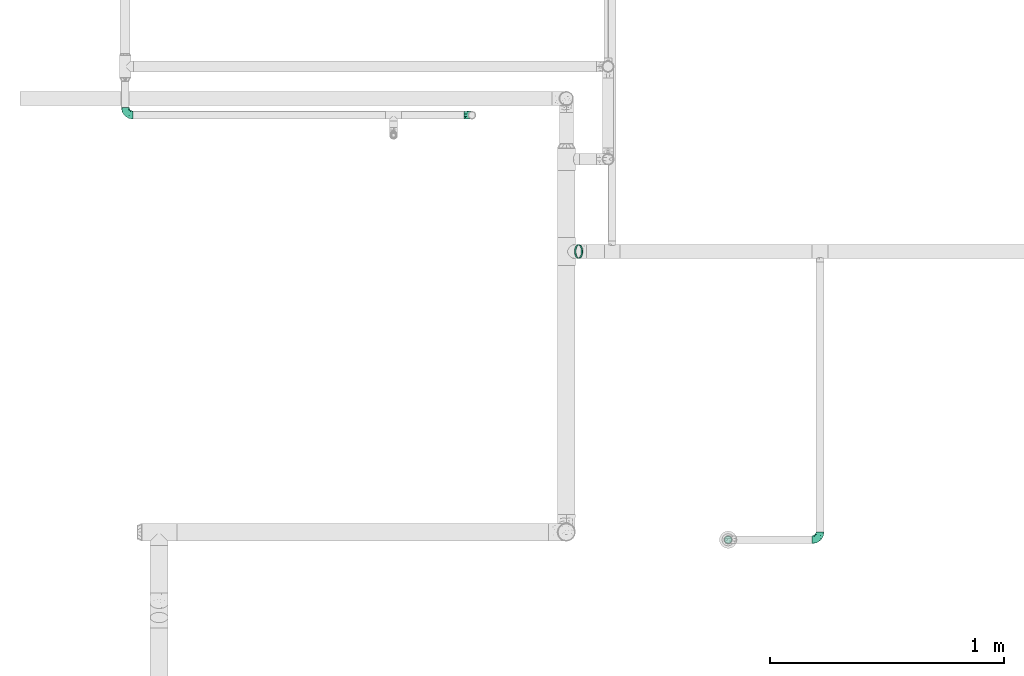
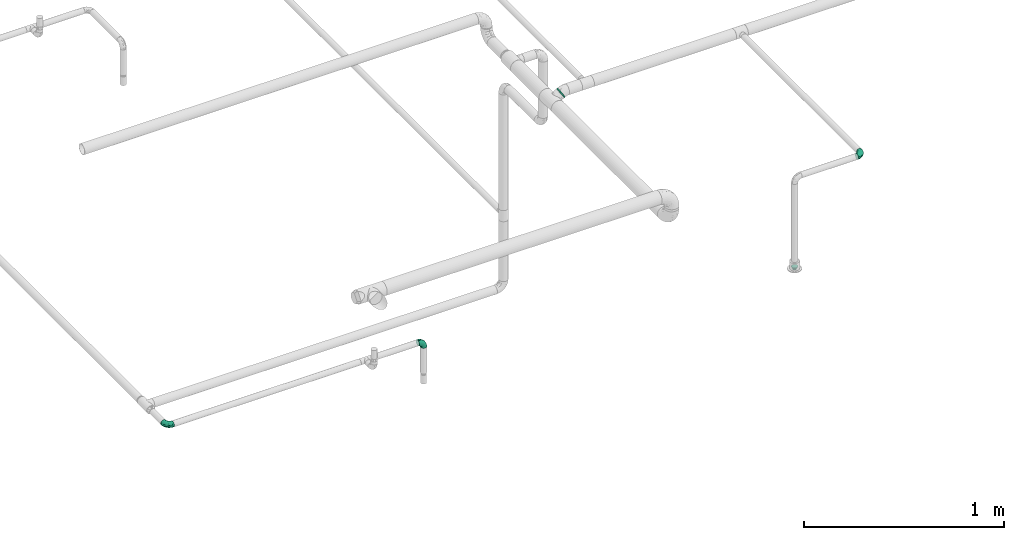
# One storey, part 60 of 95: 4 flow fittings, 1 flow segment.
"""IFC2X3 building model written with IfcOpenShell, lengths in millimetres."""

from ifc_helpers import new_model, entity, si_unit, converted_unit, derived_unit, direction, frame, origin_with_axes, origin_2d_with_axis, place, context, subcontext, project, spatial, hollow_circle, extrude, open_shell, surface_model, source, transform, mapped, type_object, element, save


model = new_model("IFC2X3")

# Units and contexts
model_context = context("Model", 3, precision=0.01, world=frame((0.0, 4.29681676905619e-09, 0.0)), true_north=direction((4.01073788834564e-13, 1.0)))
plan_context = context("Plan", 3, precision=0.01, world=frame((0.0, 4.29681676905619e-09, 0.0)), true_north=direction((4.01073788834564e-13, 1.0)))
body_context = subcontext(model_context, "Body", "Model", "MODEL_VIEW")
ifc_project = project(units=[converted_unit("PLANEANGLEUNIT", "DEGREE", entity("IfcPositiveLengthMeasure", 0.0174532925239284), si_unit("PLANEANGLEUNIT", "RADIAN"), dimensions=[0, 0, 0, 0, 0, 0, 0]), si_unit("AREAUNIT", "SQUARE_METRE"), si_unit("LENGTHUNIT", "METRE", prefix="MILLI"), si_unit("MASSUNIT", "GRAM", prefix="KILO"), si_unit("POWERUNIT", "WATT"), si_unit("PRESSUREUNIT", "PASCAL"), si_unit("FORCEUNIT", "NEWTON", prefix="KILO"), si_unit("ELECTRICVOLTAGEUNIT", "VOLT"), si_unit("ELECTRICCURRENTUNIT", "AMPERE"), si_unit("THERMODYNAMICTEMPERATUREUNIT", "DEGREE_CELSIUS"), si_unit("TIMEUNIT", "SECOND"), si_unit("VOLUMEUNIT", "CUBIC_METRE"), derived_unit("LINEARVELOCITYUNIT", [(si_unit("LENGTHUNIT", "METRE"), 1), (si_unit("TIMEUNIT", "SECOND"), -1)]), derived_unit("VOLUMETRICFLOWRATEUNIT", [(si_unit("VOLUMEUNIT", "CUBIC_METRE"), 1), (si_unit("TIMEUNIT", "SECOND"), -1)]), derived_unit("THERMALTRANSMITTANCEUNIT", [(si_unit("POWERUNIT", "WATT"), 1), (si_unit("THERMODYNAMICTEMPERATUREUNIT", "KELVIN"), -1), (si_unit("AREAUNIT", "SQUARE_METRE"), -1)]), derived_unit("SOUNDPRESSUREUNIT", [(si_unit("PRESSUREUNIT", "PASCAL"), 1)])], contexts=[model_context, plan_context])

# Site, building, storey
site_placement = place(None, frame((0.0, -4.29681676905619e-09, 0.0), z_axis=(0.0, 0.0, 1.0), x_axis=(1.0, 0.0, 0.0)))
site = spatial("IfcSite", under=ifc_project, at=site_placement, CompositionType="ELEMENT")
building_placement = place(site_placement, frame((0.0, 4.29681676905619e-09, 0.0), z_axis=(0.0, 0.0, 1.0), x_axis=(1.0, 0.0, 0.0)))
building = spatial("IfcBuilding", under=site, at=building_placement, Name="mc-building", CompositionType="ELEMENT")
storey_placement = place(building_placement, frame((0.0, 0.0, 210900.0), z_axis=(0.0, 0.0, 1.0), x_axis=(1.0, 0.0, 0.0)))
storey = spatial("IfcBuildingStorey", under=building, at=storey_placement, Name="Nivå F", CompositionType="ELEMENT", Elevation=210900.0)

# Flow fittings
pipe_fitting_type_1 = type_object("IfcPipeFittingType", Name="magi_pipe_fe_reducer_centric_short_NOR", PredefinedType="TRANSITION")
shared_shape_1 = source(origin_with_axes(), body_context, "Body", "SurfaceModel", [
    surface_model("IfcShellBasedSurfaceModel", [(14.4, 5.35, -9.26647), (14.4, 0.0, -10.7), (14.4, 2.76936, -10.33541), (14.4, 10.33541, -2.76936), (14.4, 7.56604, -7.56604), (14.4, -10.33541, -2.76936), (14.4, 9.26647, -5.35), (14.4, 0.0, 10.7), (14.4, -5.35, -9.26647), (14.4, -2.76936, -10.33541), (14.4, -7.56604, -7.56604), (14.4, -9.26647, -5.35), (14.4, 10.7, 0.0), (14.4, 10.33541, 2.76936), (14.4, 9.26647, 5.35), (14.4, 7.56604, 7.56604), (14.4, 2.76936, 10.33541), (14.4, 5.35, 9.26647), (14.4, -10.33541, 2.76936), (14.4, -7.56604, 7.56604), (14.4, -9.26647, 5.35), (14.4, -10.7, 0.0), (14.4, -2.76936, 10.33541), (14.4, -5.35, 9.26647), (12.4, 2.76936, 10.33541), (12.4, -10.33541, -2.76936), (12.4, 0.0, 10.7), (12.4, 5.35, 9.26647), (12.4, 7.56604, 7.56604), (12.4, 9.26647, 5.35), (12.4, 10.33541, 2.76936), (12.4, -10.33541, 2.76936), (12.4, -2.76936, 10.33541), (12.4, -7.56604, 7.56604), (12.4, -5.35, 9.26647), (12.4, -9.26647, 5.35), (12.4, -10.7, 0.0), (12.4, 10.33541, -2.76936), (12.4, 5.35, -9.26647), (12.4, 9.26647, -5.35), (12.4, 7.56604, -7.56604), (12.4, 2.76936, -10.33541), (12.4, -9.26647, -5.35), (12.4, -5.35, -9.26647), (12.4, -7.56604, -7.56604), (12.4, 0.0, -10.7), (12.4, -2.76936, -10.33541), (12.4, 10.7, 0.0), (-2.0, 11.9501, 11.9501), (-2.0, 0.0, 16.9), (-2.0, 4.37404, 16.32415), (-2.0, 8.45, 14.63583), (-2.0, 14.63583, 8.45), (-2.0, 16.32415, 4.37404), (-2.0, -16.32415, 4.37404), (-2.0, -8.45, 14.63583), (-2.0, -14.63583, 8.45), (-2.0, -11.9501, 11.9501), (-2.0, -4.37404, 16.32415), (-2.0, -16.32415, -4.37404), (-2.0, -16.9, 0.0), (-2.0, -8.45, -14.63583), (-2.0, 16.32415, -4.37404), (-2.0, 11.9501, -11.9501), (-2.0, 14.63583, -8.45), (-2.0, 8.45, -14.63583), (-2.0, 4.37404, -16.32415), (-2.0, 0.0, -16.9), (-2.0, -11.9501, -11.9501), (-2.0, -14.63583, -8.45), (-2.0, -4.37404, -16.32415), (-2.0, 16.9, 0.0), (0.0, 4.37404, -16.32415), (0.0, 8.45, -14.63583), (0.0, 11.9501, -11.9501), (0.0, 0.0, -16.9), (0.0, 16.32415, -4.37404), (0.0, 16.32415, 4.37404), (0.0, 14.63583, -8.45), (0.0, -8.45, -14.63583), (0.0, -4.37404, -16.32415), (0.0, -11.9501, -11.9501), (0.0, -16.32415, -4.37404), (0.0, -14.63583, -8.45), (0.0, -16.32415, 4.37404), (0.0, 16.9, 0.0), (0.0, 14.63583, 8.45), (0.0, 11.9501, 11.9501), (0.0, 4.37404, 16.32415), (0.0, 8.45, 14.63583), (0.0, 0.0, 16.9), (0.0, -14.63583, 8.45), (0.0, -16.9, 0.0), (0.0, -8.45, 14.63583), (0.0, -11.9501, 11.9501), (0.0, -4.37404, 16.32415), (12.4, 9.3625, -2.31662), (0.0, 14.42505, -5.97505), (0.0, 15.66253, -2.98753), (12.4, -6.6875, -6.94985), (0.0, -13.18758, -8.96258), (0.0, 2.98753, -15.66253), (12.4, 0.0, -9.26647), (12.4, 6.6875, -6.94985), (0.0, 8.96258, -13.18758), (12.4, -9.3625, -2.31662), (0.0, -15.66253, -2.98753), (0.0, -14.42505, -5.97505), (0.0, 5.97505, -14.42505), (0.0, -2.98753, -15.66253), (0.0, -8.96258, -13.18758), (0.0, 13.18758, -8.96258), (12.4, 8.025, -4.63324), (12.4, -2.675, -9.26647), (12.4, 2.675, -9.26647), (0.0, -5.97505, -14.42505), (12.4, -8.025, -4.63324), (12.4, -9.3625, 2.31662), (0.0, -14.42505, 5.97505), (0.0, -15.66253, 2.98753), (12.4, 6.6875, 6.94985), (0.0, 13.18758, 8.96258), (0.0, -2.98753, 15.66253), (12.4, 0.0, 9.26647), (12.4, -6.6875, 6.94985), (0.0, -8.96258, 13.18758), (12.4, 9.3625, 2.31662), (0.0, 15.66253, 2.98753), (0.0, 14.42505, 5.97505), (0.0, -5.97505, 14.42505), (0.0, 2.98753, 15.66253), (0.0, 8.96258, 13.18758), (0.0, -13.18758, 8.96258), (12.4, -8.025, 4.63324), (12.4, 2.675, 9.26647), (12.4, -2.675, 9.26647), (0.0, 5.97505, 14.42505), (12.4, 8.025, 4.63324)], [open_shell([[[0, 1, 2]], [[3, 0, 4]], [[5, 0, 3]], [[3, 4, 6]], [[7, 5, 3]], [[1, 8, 9]], [[1, 0, 8]], [[10, 5, 11]], [[5, 10, 8]], [[0, 5, 8]], [[3, 12, 13]], [[13, 14, 15]], [[13, 15, 16]], [[7, 3, 16]], [[16, 15, 17]], [[7, 18, 5]], [[18, 19, 20]], [[21, 5, 18]], [[19, 22, 23]], [[22, 19, 18]], [[7, 22, 18]], [[13, 16, 3]], [[24, 25, 26]], [[27, 25, 24]], [[28, 29, 30]], [[28, 25, 27]], [[31, 26, 25]], [[32, 33, 34]], [[33, 32, 31]], [[33, 31, 35]], [[32, 26, 31]], [[31, 25, 36]], [[30, 37, 28]], [[25, 28, 37]], [[38, 37, 39]], [[37, 38, 25]], [[38, 39, 40]], [[41, 25, 38]], [[42, 43, 44]], [[43, 42, 25]], [[43, 45, 46]], [[43, 25, 41]], [[41, 45, 43]], [[37, 30, 47]], [[25, 5, 36]], [[42, 11, 25]], [[8, 44, 43]], [[42, 44, 10]], [[9, 43, 46]], [[25, 11, 5]], [[5, 21, 36]], [[9, 8, 43]], [[10, 44, 8]], [[10, 11, 42]], [[1, 9, 46]], [[46, 45, 1]], [[41, 2, 45]], [[38, 0, 41]], [[6, 40, 39]], [[38, 40, 4]], [[3, 39, 37]], [[38, 4, 0]], [[0, 2, 41]], [[12, 3, 37]], [[6, 39, 3]], [[6, 4, 40]], [[47, 12, 37]], [[45, 2, 1]], [[30, 13, 47]], [[29, 14, 30]], [[17, 28, 27]], [[29, 28, 15]], [[16, 27, 24]], [[30, 14, 13]], [[13, 12, 47]], [[16, 17, 27]], [[15, 28, 17]], [[15, 14, 29]], [[7, 16, 24]], [[24, 26, 7]], [[32, 22, 26]], [[34, 23, 32]], [[20, 33, 35]], [[34, 33, 19]], [[18, 35, 31]], [[34, 19, 23]], [[23, 22, 32]], [[21, 18, 31]], [[20, 35, 18]], [[20, 19, 33]], [[36, 21, 31]], [[26, 22, 7]], [[48, 49, 50]], [[48, 50, 51]], [[48, 52, 53]], [[48, 53, 49]], [[49, 53, 54]], [[55, 56, 57]], [[55, 58, 49]], [[56, 55, 49]], [[49, 54, 56]], [[54, 59, 60]], [[54, 53, 61]], [[53, 62, 63]], [[63, 62, 64]], [[63, 65, 66]], [[61, 53, 63]], [[67, 63, 66]], [[59, 68, 69]], [[68, 59, 61]], [[61, 67, 70]], [[59, 54, 61]], [[63, 67, 61]], [[53, 71, 62]], [[72, 73, 74]], [[75, 72, 74]], [[74, 76, 77]], [[76, 74, 78]], [[74, 77, 79]], [[75, 79, 80]], [[75, 74, 79]], [[81, 82, 83]], [[82, 81, 79]], [[79, 84, 82]], [[77, 76, 85]], [[77, 86, 87]], [[77, 87, 88]], [[88, 84, 79]], [[88, 87, 89]], [[84, 88, 90]], [[90, 91, 84]], [[92, 82, 84]], [[91, 93, 94]], [[91, 90, 93]], [[93, 90, 95]], [[79, 77, 88]], [[59, 82, 60]], [[69, 83, 59]], [[79, 68, 61]], [[69, 68, 81]], [[80, 61, 70]], [[59, 83, 82]], [[82, 92, 60]], [[80, 79, 61]], [[81, 68, 79]], [[81, 83, 69]], [[75, 80, 70]], [[70, 67, 75]], [[66, 72, 67]], [[65, 73, 66]], [[78, 63, 64]], [[65, 63, 74]], [[76, 64, 62]], [[65, 74, 73]], [[73, 72, 66]], [[85, 76, 62]], [[78, 64, 76]], [[78, 74, 63]], [[71, 85, 62]], [[67, 72, 75]], [[53, 77, 71]], [[52, 86, 53]], [[89, 48, 51]], [[52, 48, 87]], [[88, 51, 50]], [[53, 86, 77]], [[77, 85, 71]], [[88, 89, 51]], [[87, 48, 89]], [[87, 86, 52]], [[90, 88, 50]], [[50, 49, 90]], [[58, 95, 49]], [[55, 93, 58]], [[91, 57, 56]], [[55, 57, 94]], [[84, 56, 54]], [[55, 94, 93]], [[93, 95, 58]], [[92, 84, 54]], [[91, 56, 84]], [[91, 94, 57]], [[60, 92, 54]], [[49, 95, 90]], [[27, 34, 47]], [[47, 34, 43]], [[43, 38, 47]], [[43, 34, 36]], [[90, 87, 94]], [[92, 94, 87]], [[87, 74, 92]], [[75, 92, 74]], [[81, 92, 75]], [[74, 87, 85]], [[96, 97, 98]], [[81, 99, 100]], [[101, 102, 75]], [[98, 85, 47]], [[74, 103, 104]], [[104, 103, 38]], [[105, 106, 107]], [[38, 108, 104]], [[102, 109, 75]], [[110, 99, 81]], [[47, 96, 98]], [[103, 111, 112]], [[109, 102, 113]], [[36, 92, 106]], [[102, 101, 114]], [[110, 115, 43]], [[96, 112, 97]], [[107, 116, 105]], [[36, 106, 105]], [[113, 115, 109]], [[43, 115, 113]], [[116, 107, 100]], [[108, 38, 114]], [[111, 103, 74]], [[111, 97, 112]], [[99, 110, 43]], [[116, 100, 99]], [[101, 108, 114]], [[117, 118, 119]], [[87, 120, 121]], [[122, 123, 90]], [[119, 92, 36]], [[94, 124, 125]], [[125, 124, 34]], [[126, 127, 128]], [[34, 129, 125]], [[123, 130, 90]], [[131, 120, 87]], [[36, 117, 119]], [[124, 132, 133]], [[130, 123, 134]], [[47, 85, 127]], [[123, 122, 135]], [[131, 136, 27]], [[117, 133, 118]], [[128, 137, 126]], [[47, 127, 126]], [[134, 136, 130]], [[27, 136, 134]], [[137, 128, 121]], [[129, 34, 135]], [[132, 124, 94]], [[132, 118, 133]], [[120, 131, 27]], [[137, 121, 120]], [[122, 129, 135]]])]),
])
flow_fitting_placement = place(storey_placement, frame((523293.60843, 449607.85, 3769.25200000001), z_axis=(-0.000893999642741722, -0.99999960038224, 0.0), x_axis=(0.0, 0.0, -1.0)))
element("IfcFlowFitting", 1, at=flow_fitting_placement, inside=storey, type_object=pipe_fitting_type_1, Name="magi_pipe_fe_reducer_centric_short_NOR", context=body_context, shape_type="MappedRepresentation", body=[
    mapped(shared_shape_1, transform((0.0, 0.0, 0.0), scale=1.0)),
])
pipe_fitting_type_2 = type_object("IfcPipeFittingType", Name="magi_pipe_fe_elbow_short_001", PredefinedType="BEND")
shared_shape_2 = source(origin_with_axes(), body_context, "Body", "SurfaceModel", [
    surface_model("IfcShellBasedSurfaceModel", [(-33.8, 8.45, -14.63583), (-33.8, 4.37404, -16.32415), (-33.8, 11.9501, -11.9501), (-33.8, -11.9501, -11.9501), (-33.8, -14.63583, -8.45), (-33.8, -8.45, -14.63583), (-33.8, 0.0, -16.9), (-33.8, -4.37404, -16.32415), (-33.8, -4.37404, 16.32415), (-33.8, 0.0, 16.9), (-33.8, -8.45, 14.63583), (-33.8, 16.32415, -4.37404), (-33.8, 14.63583, -8.45), (-33.8, -16.32415, -4.37404), (-33.8, -16.9, 0.0), (-33.8, -16.32415, 4.37404), (-33.8, 11.9501, 11.9501), (-33.8, 14.63583, 8.45), (-33.8, 16.32415, 4.37404), (-33.8, 4.37404, 16.32415), (-33.8, 8.45, 14.63583), (-33.8, -14.63583, 8.45), (-33.8, -11.9501, 11.9501), (-33.8, 16.9, 0.0), (-11.9501, 33.8, -11.9501), (0.0, 33.8, -16.9), (-4.37404, 33.8, -16.32415), (-8.45, 33.8, -14.63583), (-14.63583, 33.8, -8.45), (-16.32415, 33.8, -4.37404), (14.63583, 33.8, -8.45), (8.45, 33.8, 14.63583), (16.32415, 33.8, -4.37404), (8.45, 33.8, -14.63583), (11.9501, 33.8, -11.9501), (4.37404, 33.8, -16.32415), (16.32415, 33.8, 4.37404), (16.9, 33.8, 0.0), (-11.9501, 33.8, 11.9501), (-16.32415, 33.8, 4.37404), (-14.63583, 33.8, 8.45), (-8.45, 33.8, 14.63583), (-4.37404, 33.8, 16.32415), (11.9501, 33.8, 11.9501), (14.63583, 33.8, 8.45), (0.0, 33.8, 16.9), (4.37404, 33.8, 16.32415), (-16.9, 33.8, 0.0), (-24.79389, -13.12945, 9.48721), (-22.19287, -9.75018, 12.59315), (-24.09897, -14.97035, 0.0), (-14.93934, -10.76256, 8.5297), (-22.46095, -14.75051, 5.27077), (14.75051, 22.46094, 5.27077), (11.9251, 13.23888, 4.33236), (13.04069, 14.39795, 0.0), (7.71387, 13.68847, 11.55891), (9.75018, 22.19287, 12.59315), (4.10169, 13.0571, 14.04018), (-24.84007, -6.39063, 15.2048), (-25.81779, -2.23879, 16.61097), (-23.66549, 2.59054, 16.87119), (-26.50418, 14.06512, 11.08152), (-24.21253, 17.66365, 7.72657), (-29.58514, 15.86957, 7.00283), (-6.17382, -7.5455, 0.0), (-13.23888, -11.9251, 4.33236), (-14.39795, -13.04069, 0.0), (-17.81434, 18.87373, 11.97104), (-6.30846, 29.15138, 15.82987), (-2.31622, 25.28002, 16.85849), (-29.23923, 10.23435, 13.77053), (-1.45439, -2.85688, 7.61475), (-0.28326, 0.34872, 10.09509), (-5.74484, -4.04709, 10.4122), (-4.41137, 11.31918, 16.59407), (-8.39727, 3.10034, 15.7812), (-1.72649, 9.1306, 15.53089), (-17.39909, 24.75344, 7.64977), (-26.19233, 20.0512, 0.0), (-28.14518, 17.29657, 4.25857), (-26.05147, 6.6281, 15.96447), (-5.87354, 16.61944, 16.86968), (-12.51807, 12.51807, 16.48937), (-10.06312, 7.38516, 16.81295), (-3.01882, 3.01882, 13.81718), (-13.0571, -4.10169, 14.04018), (-16.82553, -0.15166, 16.38038), (10.76256, 14.93934, 8.5297), (13.12945, 24.79389, 9.48721), (6.39063, 24.84007, 15.2048), (2.23879, 25.81779, 16.61097), (-13.68847, -7.71387, 11.55891), (14.97035, 24.09897, 0.0), (-7.30894, 22.89991, 16.09489), (-10.67958, 26.17414, 14.008), (-12.78295, 18.26924, 15.06066), (-13.88562, 22.45231, 12.93244), (-18.04944, 15.16501, 14.04434), (-23.11658, 20.08178, 4.02986), (-21.84989, 21.84989, 0.0), (-18.55817, 25.48277, 3.93065), (-13.95142, 26.94732, 11.03289), (-18.57098, 7.23906, 16.59756), (-16.58335, 4.14122, 16.89279), (-17.96666, 11.46709, 15.63151), (-9.84453, 17.54304, 16.18938), (0.15166, 16.82553, 16.38038), (-23.27207, 11.47201, 14.23154), (3.84842, 5.86994, 10.70473), (-8.0212, -7.54413, 7.93275), (1.00345, -2.19508, 4.57414), (5.13203, 3.01004, 5.90201), (5.24161, 1.7543, 2.53265), (8.70457, 7.04947, 3.99182), (-20.0512, 26.19233, 0.0), (8.4852, 8.76699, 7.09296), (-4.55488, -6.72064, 4.90681), (2.05031, -2.05031, 0.0), (7.5455, 6.17382, 0.0), (-26.75399, 2.1369, -16.845), (-14.61995, 24.73803, -11.27736), (-28.45274, -13.45335, -9.81895), (-26.00469, 6.63555, -15.96645), (-23.06726, 20.04573, -4.26202), (-13.80647, -4.26506, -14.17873), (-14.67501, -0.21081, -16.07388), (-6.7902, -0.2828, -13.8478), (-24.53586, 11.08096, -14.13417), (-26.72048, 14.00837, -11.05776), (10.0967, 24.44989, -12.75976), (5.83237, 21.40218, -15.03047), (6.66249, 28.54238, -15.38093), (-20.38182, 15.48705, -12.74596), (12.53268, 21.23441, -9.15363), (12.54494, 15.67504, -5.54878), (9.7522, 12.89279, -8.66343), (-15.65186, 19.64213, -13.01327), (-12.03528, 20.66498, -14.67665), (-15.61907, 15.61906, -14.83879), (-25.56551, -15.26206, 0.0), (-24.65452, -15.12934, -5.50955), (13.45335, 28.45274, -9.81895), (15.12934, 24.65452, -5.50955), (-7.35442, -8.31014, -5.65563), (-15.67504, -12.54494, -5.54878), (-24.44989, -10.0967, -12.75976), (0.16522, 0.41303, -9.71728), (-5.70658, -5.33066, -8.89288), (-5.13869, -2.37198, -11.53565), (-21.23441, -12.53268, -9.15363), (0.71146, 7.93863, -14.09382), (0.21081, 14.67501, -16.07388), (3.49291, 14.42772, -14.76381), (-24.89911, -2.13088, -16.591), (-28.54238, -6.66249, -15.38093), (-18.44386, -7.71663, -13.26957), (2.13088, 24.89911, -16.591), (-28.64342, 17.44413, -2.89318), (1.70017, -1.28722, -5.09504), (-16.57067, 26.81947, -7.36596), (-17.69055, 27.4263, -3.76405), (-12.89279, -9.7522, -8.66343), (-5.96611, 5.96611, -15.95814), (-20.53709, 20.09345, -8.28985), (-2.1369, 26.75399, -16.845), (-6.89872, 24.58781, -16.02578), (-10.60739, 26.53157, -13.98044), (-21.40218, -5.83237, -15.03047), (2.93192, 5.89627, -11.55917), (6.89393, 12.61842, -11.82233), (5.58056, 5.95325, -8.79455), (-3.99512, 18.61798, -16.89635), (8.31014, 7.35442, -5.65563), (-9.1383, 9.86148, -16.89041), (-9.99983, 16.02119, -16.39699), (-16.68576, 9.78031, -16.34199), (-27.01915, 16.61158, -7.12979), (15.26206, 25.56551, 0.0), (-18.61798, 3.99512, -16.89635), (-19.37495, 27.82495, 0.0), (-12.61842, -6.89393, -11.82233), (-18.84705, 19.14018, -10.96545)], [open_shell([[[0, 1, 2]], [[3, 4, 5]], [[6, 7, 5]], [[8, 9, 10]], [[1, 6, 2]], [[11, 12, 2]], [[4, 2, 6]], [[2, 13, 10]], [[5, 4, 6]], [[2, 4, 13]], [[14, 15, 13]], [[11, 2, 16]], [[11, 17, 18]], [[11, 16, 17]], [[19, 20, 16]], [[16, 2, 10]], [[19, 16, 10]], [[21, 22, 15]], [[22, 13, 15]], [[22, 10, 13]], [[10, 9, 19]], [[11, 18, 23]], [[24, 25, 26]], [[24, 26, 27]], [[24, 28, 29]], [[25, 24, 30]], [[31, 32, 24]], [[33, 30, 34]], [[33, 35, 25]], [[25, 30, 33]], [[32, 30, 24]], [[32, 36, 37]], [[38, 24, 29]], [[39, 40, 29]], [[40, 38, 29]], [[38, 41, 42]], [[38, 31, 24]], [[31, 38, 42]], [[36, 43, 44]], [[36, 32, 43]], [[31, 45, 46]], [[32, 31, 43]], [[42, 45, 31]], [[39, 29, 47]], [[22, 48, 49]], [[15, 14, 50]], [[51, 48, 52]], [[53, 54, 55]], [[48, 22, 21]], [[15, 52, 21]], [[56, 57, 58]], [[49, 10, 22]], [[49, 59, 10]], [[9, 60, 61]], [[62, 63, 64]], [[65, 66, 67]], [[57, 43, 31]], [[62, 68, 63]], [[42, 69, 70]], [[20, 71, 16]], [[8, 60, 9]], [[72, 73, 74]], [[75, 76, 77]], [[16, 62, 17]], [[40, 39, 78]], [[79, 23, 80]], [[64, 18, 17]], [[9, 61, 19]], [[19, 81, 20]], [[82, 83, 84]], [[74, 85, 86]], [[59, 86, 87]], [[88, 89, 57]], [[90, 31, 46]], [[44, 53, 36]], [[46, 45, 91]], [[54, 53, 88]], [[44, 89, 53]], [[92, 86, 49]], [[89, 44, 43]], [[10, 59, 8]], [[53, 55, 93]], [[93, 36, 53]], [[66, 52, 67]], [[94, 82, 70]], [[95, 96, 94]], [[97, 98, 96]], [[79, 99, 100]], [[41, 38, 95]], [[101, 100, 99]], [[68, 78, 63]], [[42, 41, 69]], [[23, 18, 80]], [[95, 94, 69]], [[78, 101, 99]], [[38, 102, 95]], [[70, 45, 42]], [[97, 95, 102]], [[15, 50, 52]], [[90, 57, 31]], [[57, 90, 58]], [[81, 19, 61]], [[103, 104, 84]], [[105, 81, 103]], [[38, 40, 102]], [[106, 96, 83]], [[94, 106, 82]], [[91, 70, 107]], [[71, 62, 16]], [[62, 108, 98]], [[86, 59, 49]], [[67, 52, 50]], [[60, 59, 87]], [[92, 49, 51]], [[86, 85, 76]], [[91, 90, 46]], [[37, 36, 93]], [[107, 77, 58]], [[107, 58, 90]], [[58, 85, 109]], [[110, 74, 92]], [[72, 74, 110]], [[66, 51, 52]], [[72, 111, 112]], [[113, 114, 112]], [[56, 88, 57]], [[52, 48, 21]], [[49, 48, 51]], [[57, 89, 43]], [[53, 89, 88]], [[103, 81, 61]], [[71, 81, 108]], [[18, 64, 80]], [[63, 78, 99]], [[47, 115, 101]], [[101, 115, 100]], [[40, 78, 102]], [[68, 102, 78]], [[97, 96, 95]], [[105, 98, 108]], [[103, 84, 83]], [[107, 70, 82]], [[76, 84, 87]], [[82, 84, 75]], [[70, 91, 45]], [[90, 91, 107]], [[59, 60, 8]], [[61, 60, 87]], [[73, 85, 74]], [[109, 112, 116]], [[103, 61, 104]], [[105, 103, 83]], [[96, 105, 83]], [[81, 105, 108]], [[96, 98, 105]], [[62, 98, 68]], [[61, 87, 104]], [[87, 84, 104]], [[86, 76, 87]], [[77, 76, 85]], [[58, 77, 85]], [[75, 77, 107]], [[82, 75, 107]], [[76, 75, 84]], [[81, 71, 20]], [[62, 71, 108]], [[95, 69, 41]], [[70, 69, 94]], [[62, 64, 17]], [[80, 63, 99]], [[63, 80, 64]], [[80, 99, 79]], [[66, 65, 117]], [[110, 66, 117]], [[112, 114, 116]], [[118, 117, 65]], [[110, 92, 51]], [[112, 111, 113]], [[119, 55, 54]], [[74, 86, 92]], [[58, 109, 56]], [[116, 56, 109]], [[66, 110, 51]], [[72, 110, 117]], [[111, 72, 117]], [[73, 112, 109]], [[117, 118, 111]], [[113, 111, 118]], [[118, 119, 113]], [[114, 119, 54]], [[119, 114, 113]], [[116, 54, 88]], [[54, 116, 114]], [[116, 88, 56]], [[112, 73, 72]], [[85, 73, 109]], [[78, 39, 101]], [[47, 101, 39]], [[102, 68, 97]], [[97, 68, 98]], [[82, 106, 83]], [[94, 96, 106]], [[1, 120, 6]], [[28, 24, 121]], [[3, 122, 4]], [[0, 123, 1]], [[100, 124, 79]], [[125, 126, 127]], [[128, 2, 129]], [[130, 131, 132]], [[128, 129, 133]], [[134, 135, 136]], [[137, 138, 139]], [[128, 0, 2]], [[67, 140, 141]], [[134, 142, 143]], [[141, 13, 4]], [[144, 65, 145]], [[146, 3, 5]], [[147, 148, 149]], [[145, 141, 150]], [[151, 152, 153]], [[154, 7, 6]], [[5, 155, 146]], [[150, 146, 156]], [[155, 5, 7]], [[143, 135, 134]], [[35, 157, 25]], [[23, 79, 158]], [[148, 159, 144]], [[160, 161, 29]], [[145, 162, 144]], [[163, 152, 151]], [[29, 28, 160]], [[121, 164, 160]], [[33, 34, 130]], [[25, 165, 26]], [[26, 165, 166]], [[142, 34, 30]], [[24, 27, 167]], [[124, 161, 164]], [[157, 35, 132]], [[155, 154, 168]], [[123, 0, 128]], [[169, 170, 171]], [[172, 157, 152]], [[26, 166, 27]], [[132, 35, 33]], [[142, 130, 34]], [[168, 154, 126]], [[136, 135, 173]], [[133, 137, 139]], [[2, 12, 129]], [[170, 131, 130]], [[30, 32, 143]], [[172, 174, 175]], [[176, 123, 128]], [[158, 177, 11]], [[135, 55, 119]], [[167, 27, 166]], [[175, 166, 172]], [[137, 167, 138]], [[122, 141, 4]], [[140, 14, 13]], [[32, 37, 178]], [[170, 130, 134]], [[152, 157, 131]], [[165, 157, 172]], [[153, 170, 151]], [[152, 163, 174]], [[168, 125, 156]], [[122, 146, 150]], [[120, 154, 6]], [[179, 174, 126]], [[179, 126, 154]], [[126, 163, 127]], [[162, 145, 150]], [[140, 13, 141]], [[32, 178, 143]], [[55, 143, 178]], [[177, 129, 12]], [[128, 133, 139]], [[176, 128, 139]], [[120, 123, 179]], [[121, 160, 28]], [[161, 100, 180]], [[166, 175, 138]], [[121, 24, 167]], [[161, 47, 29]], [[79, 124, 158]], [[124, 164, 177]], [[161, 124, 100]], [[136, 171, 170]], [[127, 163, 151]], [[147, 171, 159]], [[148, 144, 162]], [[127, 151, 169]], [[127, 181, 125]], [[129, 177, 164]], [[12, 11, 177]], [[159, 65, 144]], [[67, 141, 145]], [[143, 55, 135]], [[135, 119, 173]], [[123, 120, 1]], [[154, 120, 179]], [[157, 165, 25]], [[166, 165, 172]], [[172, 152, 174]], [[176, 139, 175]], [[126, 174, 163]], [[176, 174, 179]], [[174, 176, 175]], [[123, 176, 179]], [[150, 181, 162]], [[127, 149, 181]], [[181, 148, 162]], [[159, 148, 147]], [[171, 136, 173]], [[170, 134, 136]], [[159, 171, 173]], [[171, 147, 169]], [[169, 147, 149]], [[151, 170, 169]], [[164, 182, 129]], [[182, 121, 137]], [[181, 149, 148]], [[169, 149, 127]], [[182, 137, 133]], [[167, 137, 121]], [[166, 138, 167]], [[175, 139, 138]], [[129, 182, 133]], [[121, 182, 164]], [[161, 160, 164]], [[47, 161, 180]], [[177, 158, 124]], [[23, 158, 11]], [[130, 132, 33]], [[157, 132, 131]], [[143, 142, 30]], [[130, 142, 134]], [[154, 155, 7]], [[146, 155, 168]], [[146, 122, 3]], [[141, 122, 150]], [[152, 131, 153]], [[159, 119, 118]], [[67, 145, 65]], [[170, 153, 131]], [[119, 159, 173]], [[159, 118, 65]], [[156, 125, 181]], [[126, 125, 168]], [[150, 156, 181]], [[168, 156, 146]]])]),
])
for number, where, z_axis, x_axis, name in (
    (2, (523686.05668, 449607.85, 4315.0), (0.0, 0.0, 1.0), (1.0, 0.0, 0.0), "magi_pipe_fe_elbow_short_001"),
    (3, (522200.0, 451420.05824, 2600.0), (0.0, -1.0, 0.0), (0.0, 0.0, 1.0), "magi_pipe_fe_elbow_short_001"),
    (4, (520719.73241, 451420.05824, 2600.0), (0.0, 0.0, 1.0), (0.0, -1.0, 0.0), "magi_pipe_fe_elbow_short_001"),
):
    element("IfcFlowFitting", number, at=place(storey_placement, frame(where, z_axis=z_axis, x_axis=x_axis)), inside=storey, type_object=pipe_fitting_type_2, Name=name, context=body_context, shape_type="MappedRepresentation", body=[
        mapped(shared_shape_2, transform((0.0, 0.0, 0.0), scale=1.0)),
    ])

# Flow segment
pipe_segment_type = type_object("IfcPipeSegmentType", Name="Stålrør normaltykke", PredefinedType="RIGIDSEGMENT")
shared_shape_3 = source(origin_with_axes(), body_context, "Body", "SweptSolid", [
    extrude(hollow_circle(Radius=30.1, WallThickness=2.0, at=origin_2d_with_axis()), frame((0.0, 0.0, 0.0), z_axis=(1.0, 0.0, 0.0), x_axis=(0.0, 1.0, 0.0)), (0.0, 0.0, 1.0), 7.0),
])
flow_segment_placement = place(storey_placement, frame((522652.41345, 450838.0, 4303.41956000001), z_axis=(-0.500000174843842, 0.0, 0.866025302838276), x_axis=(0.866025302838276, 0.0, 0.500000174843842)))
element("IfcFlowSegment", 5, at=flow_segment_placement, inside=storey, type_object=pipe_segment_type, Name="Stålrør normaltykke", context=body_context, shape_type="MappedRepresentation", body=[
    mapped(shared_shape_3, transform((0.0, 0.0, 0.0), scale=1.0)),
])

save(model, "model.ifc")
